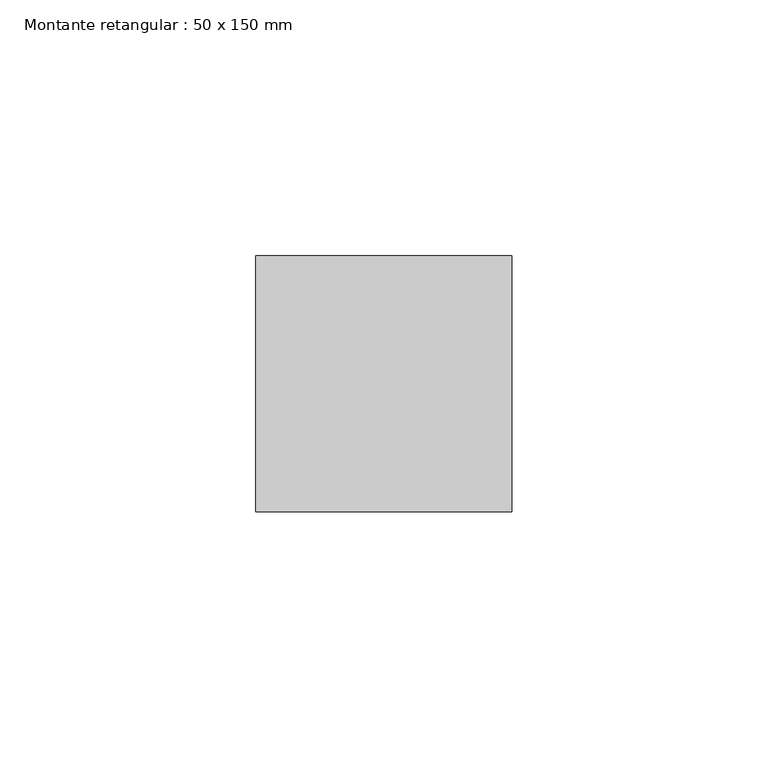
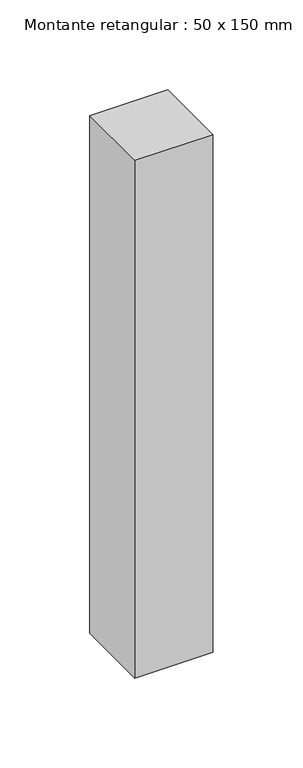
"""IFC4 building model written with IfcOpenShell, lengths in millimetres: member geometry, Montante retangular : 50 x 150 mm."""

from ifc_helpers import new_model, si_unit, frame, origin, place, context, project, spatial, polyline, outline, extrude, source, transform, mapped, element, save


def montante_retangular_50_x_150_mm_cc0d9a52(model_context):
    return source(origin(), model_context, "Body", "SweptSolid", [
        extrude(outline(polyline([(25.0, 25.0), (25.0, -25.0), (-25.0, -25.0), (-25.0, 25.0), (25.0, 25.0)])), frame((0.0, 0.0, -351.6994881), z_axis=(0.0, 0.0, 1.0), x_axis=(1.0, 0.0, 0.0)), (0.0, 0.0, 1.0), 351.6994881),
    ])


if __name__ == "__main__":
    model = new_model("IFC4")
    model_context = context("Model", 3, world=origin())
    ifc_project = project(units=[si_unit("LENGTHUNIT", "METRE", prefix="MILLI")], contexts=[model_context])
    site = spatial("IfcSite", under=ifc_project)
    building = spatial("IfcBuilding", under=site)
    placement = place(None, origin())
    montante_retangular_50_x_150_mm_shape = montante_retangular_50_x_150_mm_cc0d9a52(model_context)
    element("IfcMember", 1, ObjectType="Montante retangular : 50 x 150 mm", at=placement, inside=building, context=model_context, shape_type="MappedRepresentation", body=[
        mapped(montante_retangular_50_x_150_mm_shape, transform((0.0, 0.0, 0.0), x_axis=(1.0, 0.0, 0.0), y_axis=(0.0, 1.0, 0.0), z_axis=(0.0, 0.0, 1.0))),
    ])
    save(model, "model.ifc")
